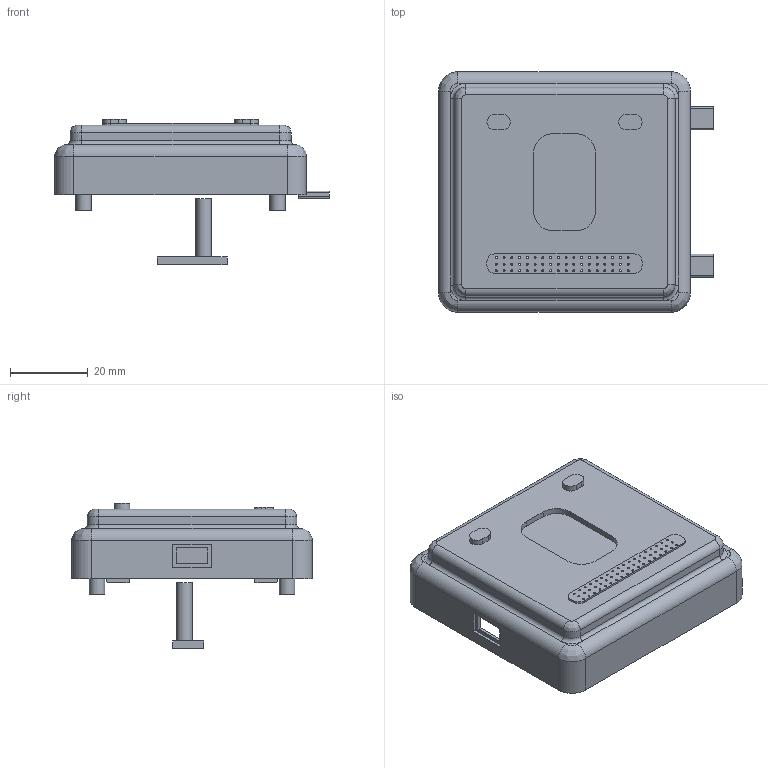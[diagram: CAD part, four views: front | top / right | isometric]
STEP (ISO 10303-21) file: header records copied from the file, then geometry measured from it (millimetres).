
FILE_DESCRIPTION(/* description */ (''),/* implementation_level */ '2;1');
FILE_NAME(/* name */ '样题7.stp',/* time_stamp */ '2021-03-16T13:01:29+08:00',/* author */ (''),/* organization */ (''),/* preprocessor_version */ 'ST-DEVELOPER v16',/* originating_system */ 'SIEMENS PLM Software NX 10.0',/* authorisation */ '');
FILE_SCHEMA (('AUTOMOTIVE_DESIGN { 1 0 10303 214 3 1 1 1 }'));
Length unit declared in the file: millimetre
Products named in the file (7): 外接件; 电气元件; 喇叭; 电路板; 屏幕; 按钮; 样题7
Assembly tree (8 placements, depth 2):
  样题7
    按钮  x2
    屏幕
    电路板
    喇叭
    电气元件
    外接件  x2
Bounding box: 70.92 x 62 x 37.5 mm (x, y, z)
Volume: 14051.8 mm3; surface area: 20400.6 mm2
Topology: 9 solids, 10 shells, 338 faces, 871 edges, 561 vertices
Faces by surface type: cylinder 161, plane 149, torus 20, bspline 8
Full cylindrical faces by diameter (mm): 0.5 x54, 2 x4, 4 x4, 4.003 x1
Entity records: 10375 total; most frequent: CARTESIAN_POINT 2183, DIRECTION 1705, ORIENTED_EDGE 1526, EDGE_CURVE 763, AXIS2_PLACEMENT_3D 655, VERTEX_POINT 528, EDGE_LOOP 511, LINE 395
